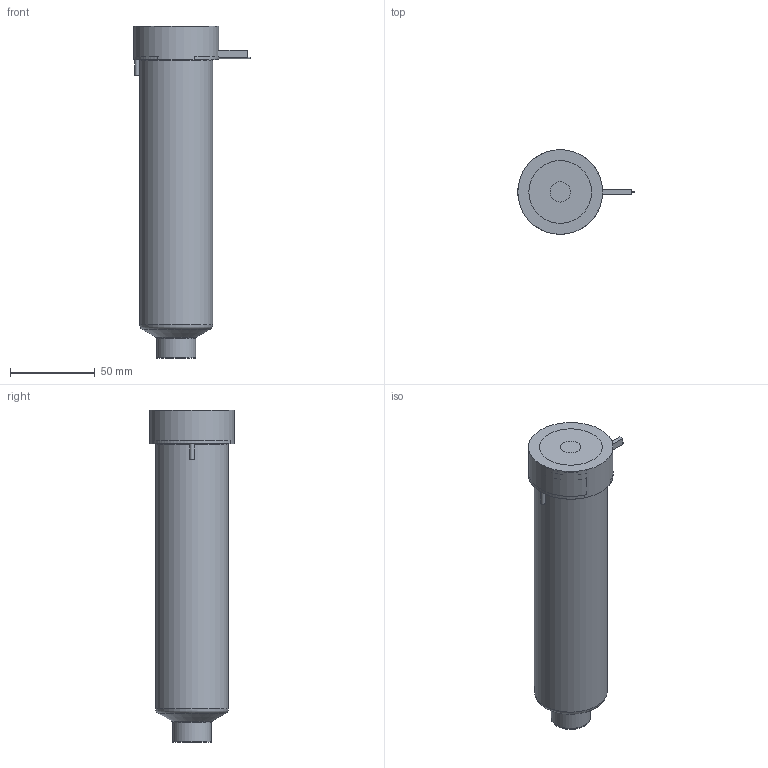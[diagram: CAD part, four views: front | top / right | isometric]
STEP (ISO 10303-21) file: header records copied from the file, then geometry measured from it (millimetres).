
FILE_DESCRIPTION(/* description */ (''),/* implementation_level */ '2;1');
FILE_NAME(/* name */ 'BXTBE27175_250C_a',/* time_stamp */ '2016-03-02T15:21:53+13:00',/* author */ (''),/* organization */ (''),/* preprocessor_version */ 'ST-DEVELOPER v9',/* originating_system */ 'UGS - NX 4.0',/* authorisation */ '');
FILE_SCHEMA (('CONFIG_CONTROL_DESIGN'));
Length unit declared in the file: millimetre
Products named in the file (1): matt3462e0jk
Bounding box: 68.6 x 50 x 195.78 mm (x, y, z)
Volume: 499413.2 mm3; surface area: 57364.2 mm2
Topology: 2 solids, 2 shells, 64 faces, 146 edges, 95 vertices
Faces by surface type: plane 28, cylinder 20, torus 8, cone 7, bspline 1
Full cylindrical faces by diameter (mm): 1 x2, 2 x1, 2.5 x1, 12 x1, 22.61 x1, 23.01 x2, 27.5 x1, 38.1 x1, 43 x1, 50 x1
Entity records: 2016 total; most frequent: CARTESIAN_POINT 582, DIRECTION 291, ORIENTED_EDGE 238, AXIS2_PLACEMENT_3D 124, EDGE_CURVE 119, EDGE_LOOP 96, VERTEX_POINT 89, ADVANCED_FACE 64
